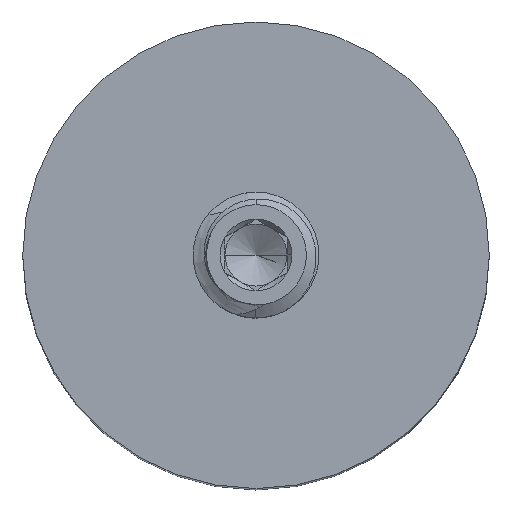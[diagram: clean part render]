
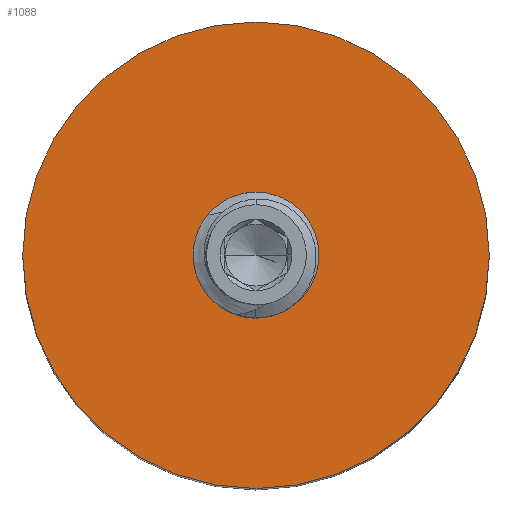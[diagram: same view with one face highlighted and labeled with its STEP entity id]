
A CAD part, top view. The second image highlights one B-rep face of the part: STEP entity #1088.
In plain terms, the highlighted planar face has unit normal (0, 0, 1).
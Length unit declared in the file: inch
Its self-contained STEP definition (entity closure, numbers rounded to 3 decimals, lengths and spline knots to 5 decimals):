
#72 = DIRECTION ( 'NONE',  ( 0., 0., 1. ) ) ;
#76 = CARTESIAN_POINT ( 'NONE',  ( -0.3525, 0., 0. ) ) ;
#287 = AXIS2_PLACEMENT_3D ( 'NONE', #4438, #1422, #4942 ) ;
#481 = CIRCLE ( 'NONE', #3631, 0.0795 ) ;
#586 = AXIS2_PLACEMENT_3D ( 'NONE', #2265, #1775, #5283 ) ;
#721 = EDGE_LOOP ( 'NONE', ( #1680, #3519 ) ) ;
#781 = FACE_OUTER_BOUND ( 'NONE', #721, .T. ) ;
#1075 = CARTESIAN_POINT ( 'NONE',  ( 0.0795, 0., 0. ) ) ;
#1088 = ADVANCED_FACE ( 'NONE', ( #4646, #781 ), #4785, .F. ) ;
#1111 = CARTESIAN_POINT ( 'NONE',  ( 0., 0., 0. ) ) ;
#1335 = EDGE_CURVE ( 'NONE', #4998, #5680, #481, .T. ) ;
#1422 = DIRECTION ( 'NONE',  ( 0., 0., 1. ) ) ;
#1623 = DIRECTION ( 'NONE',  ( 1., 0., 0. ) ) ;
#1680 = ORIENTED_EDGE ( 'NONE', *, *, #6307, .T. ) ;
#1775 = DIRECTION ( 'NONE',  ( 0., 0., -1. ) ) ;
#1831 = EDGE_LOOP ( 'NONE', ( #5688, #4373 ) ) ;
#2265 = CARTESIAN_POINT ( 'NONE',  ( 0., 0., 0. ) ) ;
#2481 = CARTESIAN_POINT ( 'NONE',  ( -0.0795, 0., 0. ) ) ;
#2879 = DIRECTION ( 'NONE',  ( 0., 0., 1. ) ) ;
#3077 = CARTESIAN_POINT ( 'NONE',  ( 0., 0., 0. ) ) ;
#3361 = VERTEX_POINT ( 'NONE', #76 ) ;
#3519 = ORIENTED_EDGE ( 'NONE', *, *, #5053, .T. ) ;
#3592 = DIRECTION ( 'NONE',  ( 1., 0., 0. ) ) ;
#3631 = AXIS2_PLACEMENT_3D ( 'NONE', #3077, #72, #3592 ) ;
#4065 = CIRCLE ( 'NONE', #4743, 0.0795 ) ;
#4240 = EDGE_CURVE ( 'NONE', #5680, #4998, #4065, .T. ) ;
#4373 = ORIENTED_EDGE ( 'NONE', *, *, #4240, .F. ) ;
#4438 = CARTESIAN_POINT ( 'NONE',  ( 0., 0., 0. ) ) ;
#4639 = DIRECTION ( 'NONE',  ( 0., 0., 1. ) ) ;
#4646 = FACE_BOUND ( 'NONE', #1831, .T. ) ;
#4743 = AXIS2_PLACEMENT_3D ( 'NONE', #5885, #2879, #6395 ) ;
#4785 = PLANE ( 'NONE',  #586 ) ;
#4917 = CARTESIAN_POINT ( 'NONE',  ( 0.3525, 0., 0. ) ) ;
#4942 = DIRECTION ( 'NONE',  ( 1., 0., 0. ) ) ;
#4998 = VERTEX_POINT ( 'NONE', #1075 ) ;
#5053 = EDGE_CURVE ( 'NONE', #3361, #6316, #6338, .T. ) ;
#5169 = AXIS2_PLACEMENT_3D ( 'NONE', #1111, #4639, #1623 ) ;
#5283 = DIRECTION ( 'NONE',  ( -1., 0., 0. ) ) ;
#5680 = VERTEX_POINT ( 'NONE', #2481 ) ;
#5688 = ORIENTED_EDGE ( 'NONE', *, *, #1335, .F. ) ;
#5885 = CARTESIAN_POINT ( 'NONE',  ( 0., 0., 0. ) ) ;
#6026 = CIRCLE ( 'NONE', #287, 0.3525 ) ;
#6307 = EDGE_CURVE ( 'NONE', #6316, #3361, #6026, .T. ) ;
#6316 = VERTEX_POINT ( 'NONE', #4917 ) ;
#6338 = CIRCLE ( 'NONE', #5169, 0.3525 ) ;
#6395 = DIRECTION ( 'NONE',  ( 1., 0., 0. ) ) ;
